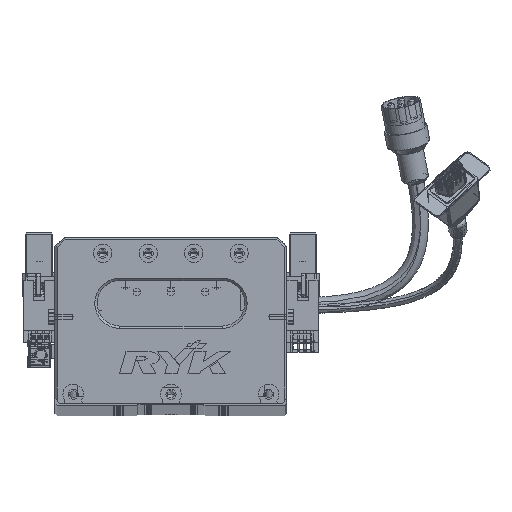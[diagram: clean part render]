
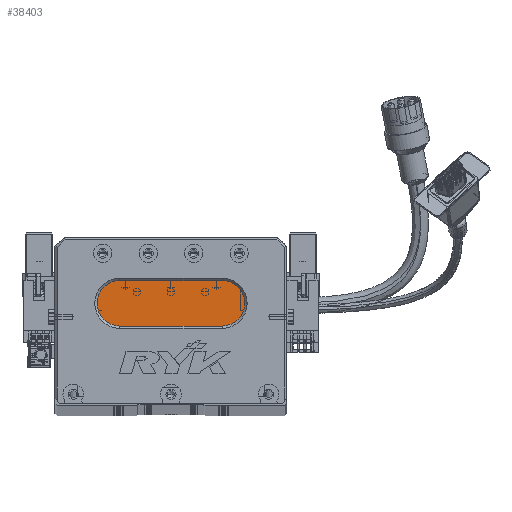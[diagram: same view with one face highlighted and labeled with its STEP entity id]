
A CAD part, top view. The second image highlights one B-rep face of the part: STEP entity #38403.
In plain terms, the highlighted planar face has unit normal (0, 0, 1) as drawn and (0, 0, -1) by its records, which use the part's own axes.
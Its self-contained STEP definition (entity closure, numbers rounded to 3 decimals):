
#273 = ORIENTED_EDGE ( 'NONE', *, *, #81924, .T. ) ;
#1537 = CIRCLE ( 'NONE', #14987, 10. ) ;
#1596 = CARTESIAN_POINT ( 'NONE',  ( 73.5, 34., 13. ) ) ;
#2106 = DIRECTION ( 'NONE',  ( -1., 0., 0. ) ) ;
#7984 = VERTEX_POINT ( 'NONE', #55273 ) ;
#9002 = DIRECTION ( 'NONE',  ( -1., 0., 0. ) ) ;
#12608 = CIRCLE ( 'NONE', #60324, 10. ) ;
#13905 = CARTESIAN_POINT ( 'NONE',  ( 28.5, 44., 13. ) ) ;
#14652 = ORIENTED_EDGE ( 'NONE', *, *, #60526, .T. ) ;
#14987 = AXIS2_PLACEMENT_3D ( 'NONE', #28570, #75258, #2106 ) ;
#15975 = EDGE_CURVE ( 'NONE', #43358, #45147, #55991, .T. ) ;
#16005 = LINE ( 'NONE', #20727, #66146 ) ;
#17748 = CARTESIAN_POINT ( 'NONE',  ( 18.5, 44., 13. ) ) ;
#17945 = CARTESIAN_POINT ( 'NONE',  ( 73.5, 34., 13. ) ) ;
#20727 = CARTESIAN_POINT ( 'NONE',  ( 73.5, 54., 13. ) ) ;
#25360 = DIRECTION ( 'NONE',  ( -1., 0., 0. ) ) ;
#27266 = DIRECTION ( 'NONE',  ( -1., 0., 0. ) ) ;
#28570 = CARTESIAN_POINT ( 'NONE',  ( 28.5, 44., 13. ) ) ;
#31081 = DIRECTION ( 'NONE',  ( -1., 0., 0. ) ) ;
#32844 = EDGE_CURVE ( 'NONE', #83139, #7984, #48894, .T. ) ;
#34930 = CARTESIAN_POINT ( 'NONE',  ( 73.5, 44., 13. ) ) ;
#38403 = ADVANCED_FACE ( 'NONE', ( #45490 ), #62046, .T. ) ;
#43358 = VERTEX_POINT ( 'NONE', #1596 ) ;
#43384 = AXIS2_PLACEMENT_3D ( 'NONE', #34930, #81516, #9002 ) ;
#45147 = VERTEX_POINT ( 'NONE', #75613 ) ;
#45490 = FACE_OUTER_BOUND ( 'NONE', #56411, .T. ) ;
#48894 = CIRCLE ( 'NONE', #56766, 10. ) ;
#49252 = ORIENTED_EDGE ( 'NONE', *, *, #15975, .T. ) ;
#51689 = DIRECTION ( 'NONE',  ( 0., 0., -1. ) ) ;
#54499 = VERTEX_POINT ( 'NONE', #59176 ) ;
#55273 = CARTESIAN_POINT ( 'NONE',  ( 28.5, 54., 13. ) ) ;
#55991 = LINE ( 'NONE', #17945, #63351 ) ;
#56411 = EDGE_LOOP ( 'NONE', ( #14652, #49252, #77337, #83814, #273 ) ) ;
#56766 = AXIS2_PLACEMENT_3D ( 'NONE', #13905, #67271, #27266 ) ;
#58066 = CARTESIAN_POINT ( 'NONE',  ( 73.5, 44., 13. ) ) ;
#58909 = EDGE_CURVE ( 'NONE', #45147, #83139, #1537, .T. ) ;
#59176 = CARTESIAN_POINT ( 'NONE',  ( 73.5, 54., 13. ) ) ;
#60324 = AXIS2_PLACEMENT_3D ( 'NONE', #58066, #51689, #25360 ) ;
#60526 = EDGE_CURVE ( 'NONE', #54499, #43358, #12608, .T. ) ;
#62046 = PLANE ( 'NONE',  #43384 ) ;
#63351 = VECTOR ( 'NONE', #31081, 1000. ) ;
#66146 = VECTOR ( 'NONE', #67439, 1000. ) ;
#67271 = DIRECTION ( 'NONE',  ( 0., 0., -1. ) ) ;
#67439 = DIRECTION ( 'NONE',  ( 1., 0., 0. ) ) ;
#75258 = DIRECTION ( 'NONE',  ( 0., 0., -1. ) ) ;
#75613 = CARTESIAN_POINT ( 'NONE',  ( 28.5, 34., 13. ) ) ;
#77337 = ORIENTED_EDGE ( 'NONE', *, *, #58909, .T. ) ;
#81516 = DIRECTION ( 'NONE',  ( 0., 0., -1. ) ) ;
#81924 = EDGE_CURVE ( 'NONE', #7984, #54499, #16005, .T. ) ;
#83139 = VERTEX_POINT ( 'NONE', #17748 ) ;
#83814 = ORIENTED_EDGE ( 'NONE', *, *, #32844, .T. ) ;
